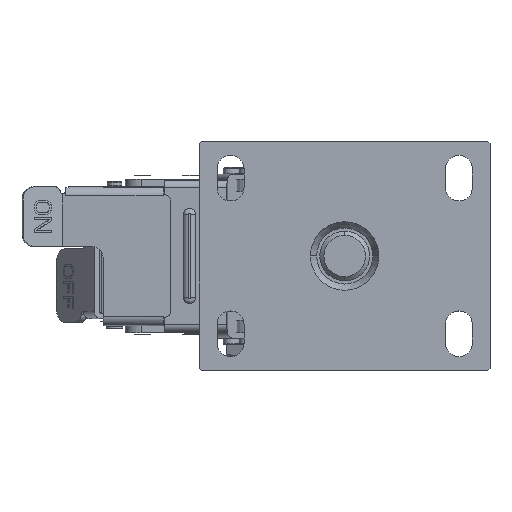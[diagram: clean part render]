
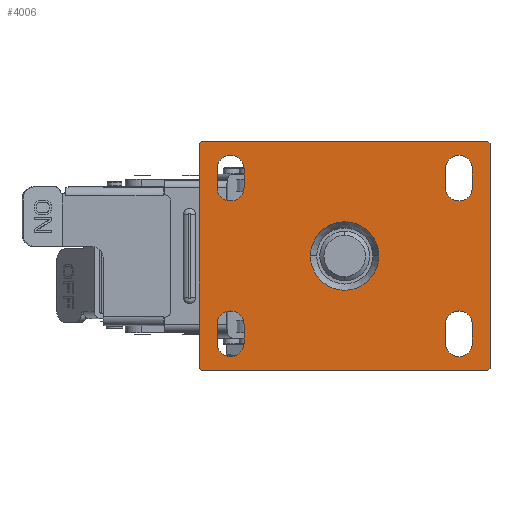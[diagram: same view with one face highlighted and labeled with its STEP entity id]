
A CAD part, top view. The second image highlights one B-rep face of the part: STEP entity #4006.
In plain terms, the highlighted planar face has unit normal (0, 0, 1).
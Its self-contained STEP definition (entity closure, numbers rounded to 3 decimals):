
#3363=DIRECTION('',(-0.707,0.707,0.));
#3364=VECTOR('',#3363,1.414);
#3365=CARTESIAN_POINT('',(115.,54.,107.5));
#3366=LINE('',#3365,#3364);
#3367=DIRECTION('',(0.,1.,0.));
#3368=VECTOR('',#3367,108.);
#3369=CARTESIAN_POINT('',(115.,-54.,107.5));
#3370=LINE('',#3369,#3368);
#3371=DIRECTION('',(0.707,0.707,0.));
#3372=VECTOR('',#3371,1.414);
#3373=CARTESIAN_POINT('',(114.,-55.,107.5));
#3374=LINE('',#3373,#3372);
#3375=DIRECTION('',(1.,0.,0.));
#3376=VECTOR('',#3375,138.);
#3377=CARTESIAN_POINT('',(-24.,-55.,107.5));
#3378=LINE('',#3377,#3376);
#3379=DIRECTION('',(0.707,-0.707,0.));
#3380=VECTOR('',#3379,1.414);
#3381=CARTESIAN_POINT('',(-25.,-54.,107.5));
#3382=LINE('',#3381,#3380);
#3383=DIRECTION('',(0.,-1.,0.));
#3384=VECTOR('',#3383,108.);
#3385=CARTESIAN_POINT('',(-25.,54.,107.5));
#3386=LINE('',#3385,#3384);
#3387=DIRECTION('',(-0.707,-0.707,0.));
#3388=VECTOR('',#3387,1.414);
#3389=CARTESIAN_POINT('',(-24.,55.,107.5));
#3390=LINE('',#3389,#3388);
#3391=DIRECTION('',(-1.,0.,0.));
#3392=VECTOR('',#3391,138.);
#3393=CARTESIAN_POINT('',(114.,55.,107.5));
#3394=LINE('',#3393,#3392);
#3395=CARTESIAN_POINT('',(45.,0.,107.5));
#3396=DIRECTION('',(0.,0.,-1.));
#3397=DIRECTION('',(1.,0.,0.));
#3398=AXIS2_PLACEMENT_3D('',#3395,#3396,#3397);
#3400=CARTESIAN_POINT('',(45.,0.,107.5));
#3401=DIRECTION('',(0.,0.,-1.));
#3402=DIRECTION('',(-1.,0.,0.));
#3403=AXIS2_PLACEMENT_3D('',#3400,#3401,#3402);
#3405=CARTESIAN_POINT('',(-10.,-33.,107.5));
#3406=DIRECTION('',(0.,0.,1.));
#3407=DIRECTION('',(1.,0.,0.));
#3408=AXIS2_PLACEMENT_3D('',#3405,#3406,#3407);
#3410=DIRECTION('',(0.,-1.,0.));
#3411=VECTOR('',#3410,9.);
#3412=CARTESIAN_POINT('',(-16.5,-33.,107.5));
#3413=LINE('',#3412,#3411);
#3414=CARTESIAN_POINT('',(-10.,-42.,107.5));
#3415=DIRECTION('',(0.,0.,1.));
#3416=DIRECTION('',(-1.,0.,0.));
#3417=AXIS2_PLACEMENT_3D('',#3414,#3415,#3416);
#3419=DIRECTION('',(0.,1.,0.));
#3420=VECTOR('',#3419,9.);
#3421=CARTESIAN_POINT('',(-3.5,-42.,107.5));
#3422=LINE('',#3421,#3420);
#3423=CARTESIAN_POINT('',(100.,-33.,107.5));
#3424=DIRECTION('',(0.,0.,-1.));
#3425=DIRECTION('',(-1.,0.,0.));
#3426=AXIS2_PLACEMENT_3D('',#3423,#3424,#3425);
#3428=DIRECTION('',(0.,1.,0.));
#3429=VECTOR('',#3428,9.);
#3430=CARTESIAN_POINT('',(93.5,-42.,107.5));
#3431=LINE('',#3430,#3429);
#3432=CARTESIAN_POINT('',(100.,-42.,107.5));
#3433=DIRECTION('',(0.,0.,-1.));
#3434=DIRECTION('',(1.,0.,0.));
#3435=AXIS2_PLACEMENT_3D('',#3432,#3433,#3434);
#3437=DIRECTION('',(0.,-1.,0.));
#3438=VECTOR('',#3437,9.);
#3439=CARTESIAN_POINT('',(106.5,-33.,107.5));
#3440=LINE('',#3439,#3438);
#3441=CARTESIAN_POINT('',(-10.,33.,107.5));
#3442=DIRECTION('',(0.,0.,-1.));
#3443=DIRECTION('',(1.,0.,0.));
#3444=AXIS2_PLACEMENT_3D('',#3441,#3442,#3443);
#3446=DIRECTION('',(0.,-1.,0.));
#3447=VECTOR('',#3446,9.);
#3448=CARTESIAN_POINT('',(-3.5,42.,107.5));
#3449=LINE('',#3448,#3447);
#3450=CARTESIAN_POINT('',(-10.,42.,107.5));
#3451=DIRECTION('',(0.,0.,-1.));
#3452=DIRECTION('',(-1.,0.,0.));
#3453=AXIS2_PLACEMENT_3D('',#3450,#3451,#3452);
#3455=DIRECTION('',(0.,1.,0.));
#3456=VECTOR('',#3455,9.);
#3457=CARTESIAN_POINT('',(-16.5,33.,107.5));
#3458=LINE('',#3457,#3456);
#3459=CARTESIAN_POINT('',(100.,33.,107.5));
#3460=DIRECTION('',(0.,0.,1.));
#3461=DIRECTION('',(-1.,0.,0.));
#3462=AXIS2_PLACEMENT_3D('',#3459,#3460,#3461);
#3464=DIRECTION('',(0.,1.,0.));
#3465=VECTOR('',#3464,9.);
#3466=CARTESIAN_POINT('',(106.5,33.,107.5));
#3467=LINE('',#3466,#3465);
#3468=CARTESIAN_POINT('',(100.,42.,107.5));
#3469=DIRECTION('',(0.,0.,1.));
#3470=DIRECTION('',(1.,0.,0.));
#3471=AXIS2_PLACEMENT_3D('',#3468,#3469,#3470);
#3473=DIRECTION('',(0.,-1.,0.));
#3474=VECTOR('',#3473,9.);
#3475=CARTESIAN_POINT('',(93.5,42.,107.5));
#3476=LINE('',#3475,#3474);
#3575=CARTESIAN_POINT('',(115.,54.,107.5));
#3576=VERTEX_POINT('',#3575);
#3577=CARTESIAN_POINT('',(114.,55.,107.5));
#3578=VERTEX_POINT('',#3577);
#3583=CARTESIAN_POINT('',(114.,-55.,107.5));
#3584=VERTEX_POINT('',#3583);
#3585=CARTESIAN_POINT('',(115.,-54.,107.5));
#3586=VERTEX_POINT('',#3585);
#3591=CARTESIAN_POINT('',(-24.,55.,107.5));
#3592=VERTEX_POINT('',#3591);
#3593=CARTESIAN_POINT('',(-25.,54.,107.5));
#3594=VERTEX_POINT('',#3593);
#3599=CARTESIAN_POINT('',(-25.,-54.,107.5));
#3600=VERTEX_POINT('',#3599);
#3601=CARTESIAN_POINT('',(-24.,-55.,107.5));
#3602=VERTEX_POINT('',#3601);
#3603=CARTESIAN_POINT('',(61.5,0.,107.5));
#3604=CARTESIAN_POINT('',(28.5,0.,107.5));
#3605=VERTEX_POINT('',#3603);
#3606=VERTEX_POINT('',#3604);
#3619=CARTESIAN_POINT('',(-3.5,-33.,107.5));
#3620=CARTESIAN_POINT('',(-16.5,-33.,107.5));
#3621=VERTEX_POINT('',#3619);
#3622=VERTEX_POINT('',#3620);
#3623=CARTESIAN_POINT('',(-16.5,-42.,107.5));
#3624=VERTEX_POINT('',#3623);
#3625=CARTESIAN_POINT('',(-3.5,-42.,107.5));
#3626=VERTEX_POINT('',#3625);
#3628=CARTESIAN_POINT('',(93.5,-33.,107.5));
#3630=VERTEX_POINT('',#3628);
#3632=CARTESIAN_POINT('',(106.5,-33.,107.5));
#3634=VERTEX_POINT('',#3632);
#3636=CARTESIAN_POINT('',(106.5,-42.,107.5));
#3638=VERTEX_POINT('',#3636);
#3640=CARTESIAN_POINT('',(93.5,-42.,107.5));
#3642=VERTEX_POINT('',#3640);
#3644=CARTESIAN_POINT('',(-3.5,33.,107.5));
#3646=VERTEX_POINT('',#3644);
#3648=CARTESIAN_POINT('',(-16.5,33.,107.5));
#3650=VERTEX_POINT('',#3648);
#3652=CARTESIAN_POINT('',(-16.5,42.,107.5));
#3654=VERTEX_POINT('',#3652);
#3656=CARTESIAN_POINT('',(-3.5,42.,107.5));
#3658=VERTEX_POINT('',#3656);
#3660=CARTESIAN_POINT('',(93.5,33.,107.5));
#3662=VERTEX_POINT('',#3660);
#3664=CARTESIAN_POINT('',(106.5,33.,107.5));
#3666=VERTEX_POINT('',#3664);
#3668=CARTESIAN_POINT('',(106.5,42.,107.5));
#3670=VERTEX_POINT('',#3668);
#3672=CARTESIAN_POINT('',(93.5,42.,107.5));
#3674=VERTEX_POINT('',#3672);
#3945=CARTESIAN_POINT('',(45.,0.,107.5));
#3946=DIRECTION('',(0.,0.,1.));
#3947=DIRECTION('',(1.,0.,0.));
#3948=AXIS2_PLACEMENT_3D('',#3945,#3946,#3947);
#3949=PLANE('',#3948);
#3950=ORIENTED_EDGE('',*,*,#3785,.F.);
#3951=ORIENTED_EDGE('',*,*,#3808,.F.);
#3952=ORIENTED_EDGE('',*,*,#3828,.F.);
#3953=ORIENTED_EDGE('',*,*,#3850,.F.);
#3954=ORIENTED_EDGE('',*,*,#3870,.F.);
#3955=ORIENTED_EDGE('',*,*,#3890,.F.);
#3956=ORIENTED_EDGE('',*,*,#3912,.F.);
#3957=ORIENTED_EDGE('',*,*,#3931,.F.);
#3958=EDGE_LOOP('',(#3950,#3951,#3952,#3953,#3954,#3955,#3956,#3957));
#3959=FACE_OUTER_BOUND('',#3958,.F.);
#3961=ORIENTED_EDGE('',*,*,#3960,.F.);
#3963=ORIENTED_EDGE('',*,*,#3962,.F.);
#3964=EDGE_LOOP('',(#3961,#3963));
#3965=FACE_BOUND('',#3964,.F.);
#3967=ORIENTED_EDGE('',*,*,#3966,.T.);
#3969=ORIENTED_EDGE('',*,*,#3968,.T.);
#3971=ORIENTED_EDGE('',*,*,#3970,.T.);
#3973=ORIENTED_EDGE('',*,*,#3972,.T.);
#3974=EDGE_LOOP('',(#3967,#3969,#3971,#3973));
#3975=FACE_BOUND('',#3974,.F.);
#3977=ORIENTED_EDGE('',*,*,#3976,.F.);
#3979=ORIENTED_EDGE('',*,*,#3978,.F.);
#3981=ORIENTED_EDGE('',*,*,#3980,.F.);
#3983=ORIENTED_EDGE('',*,*,#3982,.F.);
#3984=EDGE_LOOP('',(#3977,#3979,#3981,#3983));
#3985=FACE_BOUND('',#3984,.F.);
#3987=ORIENTED_EDGE('',*,*,#3986,.F.);
#3989=ORIENTED_EDGE('',*,*,#3988,.F.);
#3991=ORIENTED_EDGE('',*,*,#3990,.F.);
#3993=ORIENTED_EDGE('',*,*,#3992,.F.);
#3994=EDGE_LOOP('',(#3987,#3989,#3991,#3993));
#3995=FACE_BOUND('',#3994,.F.);
#3997=ORIENTED_EDGE('',*,*,#3996,.T.);
#3999=ORIENTED_EDGE('',*,*,#3998,.T.);
#4001=ORIENTED_EDGE('',*,*,#4000,.T.);
#4003=ORIENTED_EDGE('',*,*,#4002,.T.);
#4004=EDGE_LOOP('',(#3997,#3999,#4001,#4003));
#4005=FACE_BOUND('',#4004,.F.);
#4006=ADVANCED_FACE('',(#3959,#3965,#3975,#3985,#3995,#4005),#3949,.T.);
#3399=CIRCLE('',#3398,16.5);
#3404=CIRCLE('',#3403,16.5);
#3409=CIRCLE('',#3408,6.5);
#3418=CIRCLE('',#3417,6.5);
#3427=CIRCLE('',#3426,6.5);
#3436=CIRCLE('',#3435,6.5);
#3445=CIRCLE('',#3444,6.5);
#3454=CIRCLE('',#3453,6.5);
#3463=CIRCLE('',#3462,6.5);
#3472=CIRCLE('',#3471,6.5);
#3785=EDGE_CURVE('',#3576,#3578,#3366,.T.);
#3808=EDGE_CURVE('',#3586,#3576,#3370,.T.);
#3828=EDGE_CURVE('',#3584,#3586,#3374,.T.);
#3850=EDGE_CURVE('',#3602,#3584,#3378,.T.);
#3870=EDGE_CURVE('',#3600,#3602,#3382,.T.);
#3890=EDGE_CURVE('',#3594,#3600,#3386,.T.);
#3912=EDGE_CURVE('',#3592,#3594,#3390,.T.);
#3931=EDGE_CURVE('',#3578,#3592,#3394,.T.);
#3960=EDGE_CURVE('',#3605,#3606,#3399,.T.);
#3962=EDGE_CURVE('',#3606,#3605,#3404,.T.);
#3966=EDGE_CURVE('',#3621,#3622,#3409,.T.);
#3968=EDGE_CURVE('',#3622,#3624,#3413,.T.);
#3970=EDGE_CURVE('',#3624,#3626,#3418,.T.);
#3972=EDGE_CURVE('',#3626,#3621,#3422,.T.);
#3976=EDGE_CURVE('',#3630,#3634,#3427,.T.);
#3978=EDGE_CURVE('',#3642,#3630,#3431,.T.);
#3980=EDGE_CURVE('',#3638,#3642,#3436,.T.);
#3982=EDGE_CURVE('',#3634,#3638,#3440,.T.);
#3986=EDGE_CURVE('',#3646,#3650,#3445,.T.);
#3988=EDGE_CURVE('',#3658,#3646,#3449,.T.);
#3990=EDGE_CURVE('',#3654,#3658,#3454,.T.);
#3992=EDGE_CURVE('',#3650,#3654,#3458,.T.);
#3996=EDGE_CURVE('',#3662,#3666,#3463,.T.);
#3998=EDGE_CURVE('',#3666,#3670,#3467,.T.);
#4000=EDGE_CURVE('',#3670,#3674,#3472,.T.);
#4002=EDGE_CURVE('',#3674,#3662,#3476,.T.);
